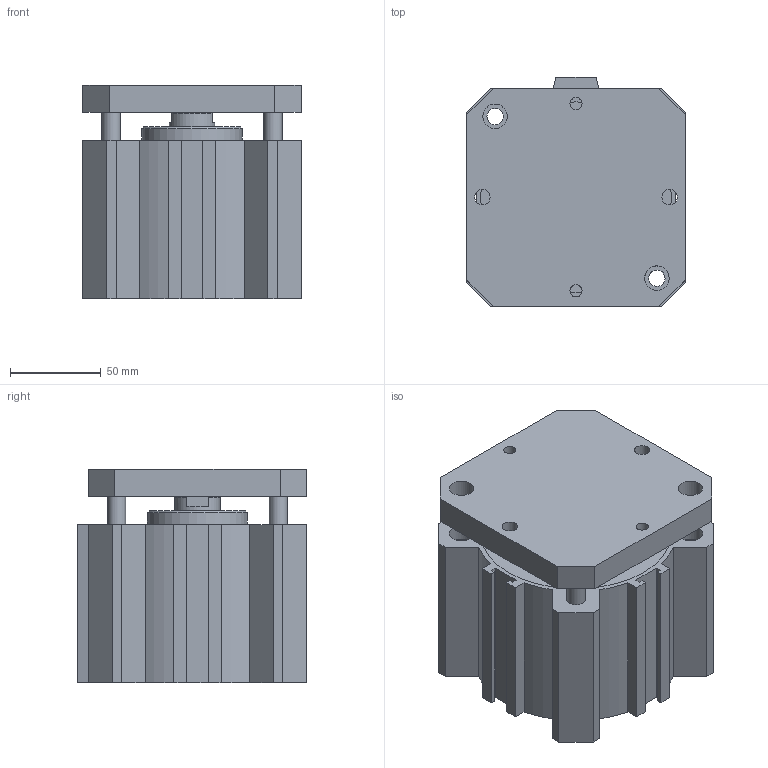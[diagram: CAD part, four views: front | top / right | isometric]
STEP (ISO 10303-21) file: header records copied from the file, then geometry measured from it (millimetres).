
FILE_DESCRIPTION(/* description */ (''),/* implementation_level */ '2;1');
FILE_NAME(/* name */ 'I:\Area Tecnica\Disegni\VARIE-3D\Componenti\1500\Ø100\15##_100_####_#\1501_100_0040_AR.stp',/* time_stamp */ '2016-08-24T15:09:45+02:00',/* author */ ('Maniean1'),/* organization */ (''),/* preprocessor_version */ 'ST-DEVELOPER v15.2',/* originating_system */ 'Autodesk Inventor 2014',/* authorisation */ '');
FILE_SCHEMA (('AUTOMOTIVE_DESIGN { 1 0 10303 214 3 1 1 }'));
Length unit declared in the file: millimetre
Products named in the file (3): C_1501_100_0040_AR; S_1501_100_0040_AR; 1501_100_0040_AR
Bounding box: 120 x 126 x 117.5 mm (x, y, z)
Volume: 931031.8 mm3; surface area: 195512.3 mm2
Topology: 2 solids, 2 shells, 139 faces, 342 edges, 229 vertices
Faces by surface type: plane 94, cylinder 40, cone 5
Full cylindrical faces by diameter (mm): 6.647 x2, 8.5 x2, 9 x4, 10 x4, 13.5 x10, 14.95 x2, 25 x2, 55 x2, 100 x2, 105 x2
Entity records: 3978 total; most frequent: CARTESIAN_POINT 674, DIRECTION 672, ORIENTED_EDGE 600, EDGE_CURVE 300, AXIS2_PLACEMENT_3D 232, VERTEX_POINT 222, EDGE_LOOP 216, LINE 208
